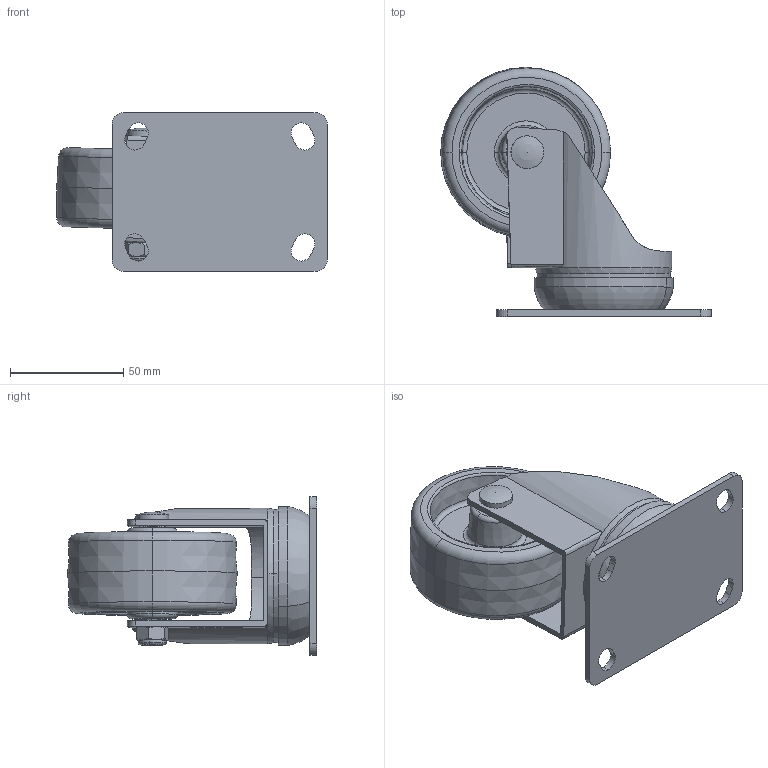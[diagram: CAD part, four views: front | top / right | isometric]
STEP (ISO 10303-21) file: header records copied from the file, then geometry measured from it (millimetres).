
FILE_DESCRIPTION (( 'STEP AP214' ), '1' );
FILE_NAME ('WCN75-P.step', '2024-01-12T00:43:18', ( '' ), ( '' ), 'SwSTEP 2.0', 'SolidWorks 2022', '' );
FILE_SCHEMA (( 'AUTOMOTIVE_DESIGN' ));
Length unit declared in the file: millimetre
Products named in the file (8): SP12-8-41; 95X70 WC ; WC-M8x55; 61.5 TOP CAP; M8Nyloc; WCN75-P; WCN75
Assembly tree (7 placements, depth 2):
  WCN75-P
    WCN75-P
    WC-M8x55
    M8Nyloc
    61.5 TOP CAP
    WCN75
    SP12-8-41
    95X70 WC 
Bounding box: 119.5 x 110 x 70 mm (x, y, z)
Volume: 177912.7 mm3; surface area: 71888.8 mm2
Topology: 7 solids, 7 shells, 713 faces, 1918 edges, 1264 vertices
Faces by surface type: plane 371, bspline 201, cylinder 84, torus 30, cone 26, sphere 1
Entity records: 38073 total; most frequent: CARTESIAN_POINT 18714, ORIENTED_EDGE 3830, DIRECTION 2657, EDGE_CURVE 1915, VERTEX_POINT 1262, LINE 1217, VECTOR 1217, EDGE_LOOP 781
